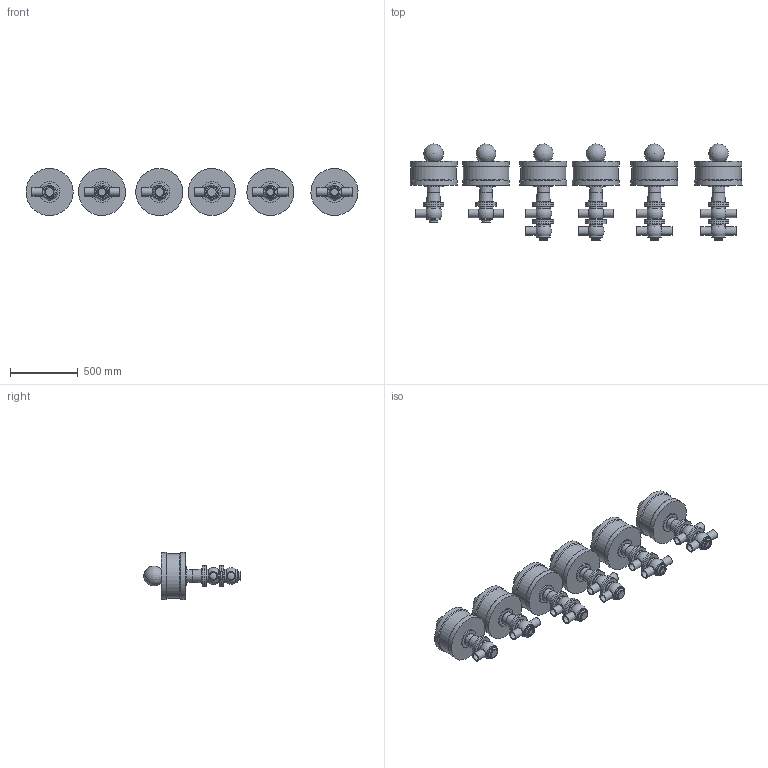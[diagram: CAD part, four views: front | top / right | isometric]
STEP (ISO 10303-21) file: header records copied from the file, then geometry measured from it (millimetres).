
FILE_DESCRIPTION(/* description */ (''),/* implementation_level */ '2;1');
FILE_NAME(/* name */ 'C:\Users\marz-m\Desktop\PDF\BBZQ 3D STEP\BBZQ-DN63.5-CIL.320.stp',/* time_stamp */ '2018-04-13T15:16:34+02:00',/* author */ ('marz-m'),/* organization */ (''),/* preprocessor_version */ 'ST-DEVELOPER v17',/* originating_system */ 'Autodesk Inventor 2018',/* authorisation */ '');
FILE_SCHEMA (('AUTOMOTIVE_DESIGN { 1 0 10303 214 3 1 1 }'));
Length unit declared in the file: millimetre
Products named in the file (8): BBZQ-DN63.5-CIL.320; ASSEMBL-CIL207--360-BBZQ-DN065; CILINDRO 320; SAGOMA-GIOTTO-; COR-INF-L-BBZQ-DN63.5; CORPO SUP- DN63.5 L; CORPO SUP- DN63.5 T; COR-INF-T-BBZQ-DN63.5
Assembly tree (28 placements, depth 2):
  BBZQ-DN63.5-CIL.320
    ASSEMBL-CIL207--360-BBZQ-DN065  x6
    COR-INF-L-BBZQ-DN63.5  x3
    COR-INF-T-BBZQ-DN63.5  x3
    CORPO SUP- DN63.5 L  x2
    CORPO SUP- DN63.5 T  x2
    CILINDRO 320  x6
    SAGOMA-GIOTTO-  x6
Bounding box: 2453.35 x 709.47 x 348 mm (x, y, z)
Volume: 125755082.3 mm3; surface area: 4807638.9 mm2
Topology: 28 solids, 28 shells, 362 faces, 901 edges, 666 vertices
Faces by surface type: cylinder 139, plane 112, torus 44, cone 36, sphere 31
Full cylindrical faces by diameter (mm): 25.4 x6, 53.5 x18, 63.5 x21, 68 x6, 69.8 x6, 70 x6, 80 x6, 92 x6, 101 x20, 141 x6, 154 x20, 334 x6, 348 x12
Entity records: 3671 total; most frequent: DIRECTION 723, CARTESIAN_POINT 570, ORIENTED_EDGE 494, AXIS2_PLACEMENT_3D 338, EDGE_CURVE 247, CIRCLE 200, VERTEX_POINT 185, EDGE_LOOP 130
